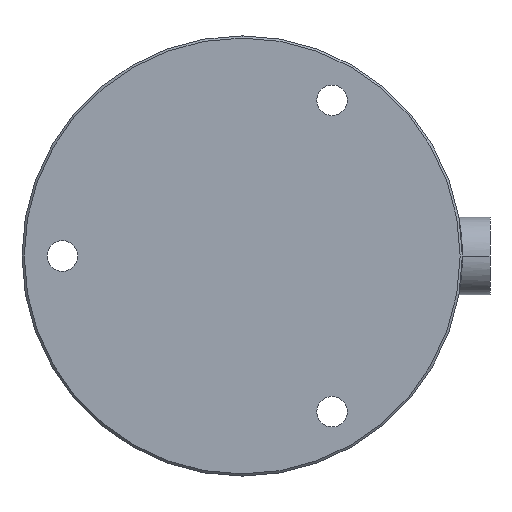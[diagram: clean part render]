
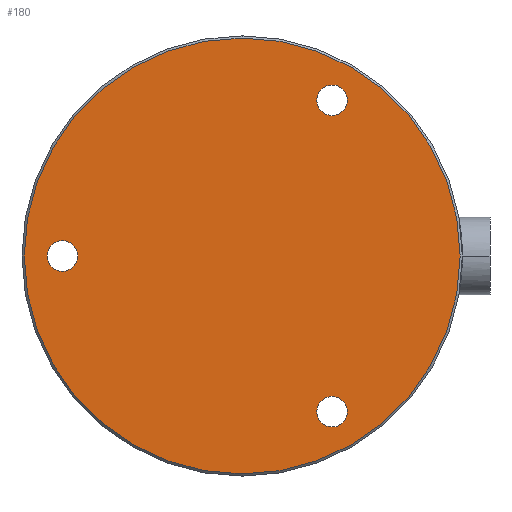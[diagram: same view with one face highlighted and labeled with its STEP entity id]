
A CAD part, front view. The second image highlights one B-rep face of the part: STEP entity #180.
In plain terms, the highlighted planar face has unit normal (0, -1, 0).
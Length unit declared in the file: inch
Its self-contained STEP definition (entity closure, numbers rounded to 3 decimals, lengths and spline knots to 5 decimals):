
#1 = AXIS2_PLACEMENT_3D ( 'NONE', #393, #382, #388 ) ;
#6 = EDGE_CURVE ( 'NONE', #324, #310, #711, .T. ) ;
#8 = EDGE_CURVE ( 'NONE', #328, #314, #701, .T. ) ;
#15 = AXIS2_PLACEMENT_3D ( 'NONE', #385, #387, #367 ) ;
#57 = AXIS2_PLACEMENT_3D ( 'NONE', #500, #501, #511 ) ;
#61 = AXIS2_PLACEMENT_3D ( 'NONE', #578, #606, #607 ) ;
#67 = AXIS2_PLACEMENT_3D ( 'NONE', #183, #214, #202 ) ;
#69 = AXIS2_PLACEMENT_3D ( 'NONE', #622, #615, #613 ) ;
#79 = AXIS2_PLACEMENT_3D ( 'NONE', #604, #591, #599 ) ;
#82 = AXIS2_PLACEMENT_3D ( 'NONE', #203, #204, #209 ) ;
#87 = AXIS2_PLACEMENT_3D ( 'NONE', #196, #199, #200 ) ;
#100 = CIRCLE ( 'NONE', #82, 0.069 ) ;
#118 = CIRCLE ( 'NONE', #67, 0.069 ) ;
#142 = CIRCLE ( 'NONE', #69, 0.985 ) ;
#149 = CIRCLE ( 'NONE', #87, 0.069 ) ;
#180 = ADVANCED_FACE ( 'NONE', ( #778, #784, #777, #776 ), #499, .F. ) ;
#183 = CARTESIAN_POINT ( 'NONE',  ( -0.8125, -0.876, 0. ) ) ;
#196 = CARTESIAN_POINT ( 'NONE',  ( 0.40625, -0.876, -0.70365 ) ) ;
#199 = DIRECTION ( 'NONE',  ( 0., 1., 0. ) ) ;
#200 = DIRECTION ( 'NONE',  ( 0., 0., 1. ) ) ;
#202 = DIRECTION ( 'NONE',  ( 0., 0., 1. ) ) ;
#203 = CARTESIAN_POINT ( 'NONE',  ( 0.40625, -0.876, 0.70365 ) ) ;
#204 = DIRECTION ( 'NONE',  ( 0., 1., 0. ) ) ;
#209 = DIRECTION ( 'NONE',  ( 0., 0., 1. ) ) ;
#214 = DIRECTION ( 'NONE',  ( 0., 1., 0. ) ) ;
#310 = VERTEX_POINT ( 'NONE', #546 ) ;
#314 = VERTEX_POINT ( 'NONE', #547 ) ;
#319 = VERTEX_POINT ( 'NONE', #520 ) ;
#322 = VERTEX_POINT ( 'NONE', #570 ) ;
#324 = VERTEX_POINT ( 'NONE', #568 ) ;
#328 = VERTEX_POINT ( 'NONE', #536 ) ;
#334 = VERTEX_POINT ( 'NONE', #532 ) ;
#338 = VERTEX_POINT ( 'NONE', #533 ) ;
#367 = DIRECTION ( 'NONE',  ( 0., 0., 1. ) ) ;
#382 = DIRECTION ( 'NONE',  ( 0., 1., 0. ) ) ;
#385 = CARTESIAN_POINT ( 'NONE',  ( 0., -0.876, 0. ) ) ;
#387 = DIRECTION ( 'NONE',  ( 0., -1., 0. ) ) ;
#388 = DIRECTION ( 'NONE',  ( 0., 0., 1. ) ) ;
#393 = CARTESIAN_POINT ( 'NONE',  ( -0.8125, -0.876, 0. ) ) ;
#499 = PLANE ( 'NONE',  #57 ) ;
#500 = CARTESIAN_POINT ( 'NONE',  ( -2.19457, -0.876, 0. ) ) ;
#501 = DIRECTION ( 'NONE',  ( 0., 1., 0. ) ) ;
#511 = DIRECTION ( 'NONE',  ( 0., 0., 1. ) ) ;
#520 = CARTESIAN_POINT ( 'NONE',  ( 0.40625, -0.876, -0.63465 ) ) ;
#532 = CARTESIAN_POINT ( 'NONE',  ( 0.40625, -0.876, -0.77265 ) ) ;
#533 = CARTESIAN_POINT ( 'NONE',  ( 0.40625, -0.876, 0.77265 ) ) ;
#536 = CARTESIAN_POINT ( 'NONE',  ( 0., -0.876, 0.985 ) ) ;
#546 = CARTESIAN_POINT ( 'NONE',  ( -0.8125, -0.876, -0.069 ) ) ;
#547 = CARTESIAN_POINT ( 'NONE',  ( 0., -0.876, -0.985 ) ) ;
#568 = CARTESIAN_POINT ( 'NONE',  ( -0.8125, -0.876, 0.069 ) ) ;
#570 = CARTESIAN_POINT ( 'NONE',  ( 0.40625, -0.876, 0.63465 ) ) ;
#578 = CARTESIAN_POINT ( 'NONE',  ( 0.40625, -0.876, -0.70365 ) ) ;
#591 = DIRECTION ( 'NONE',  ( 0., 1., 0. ) ) ;
#599 = DIRECTION ( 'NONE',  ( 0., 0., 1. ) ) ;
#604 = CARTESIAN_POINT ( 'NONE',  ( 0.40625, -0.876, 0.70365 ) ) ;
#606 = DIRECTION ( 'NONE',  ( 0., 1., 0. ) ) ;
#607 = DIRECTION ( 'NONE',  ( 0., 0., 1. ) ) ;
#613 = DIRECTION ( 'NONE',  ( 0., 0., 1. ) ) ;
#615 = DIRECTION ( 'NONE',  ( 0., -1., 0. ) ) ;
#622 = CARTESIAN_POINT ( 'NONE',  ( 0., -0.876, 0. ) ) ;
#630 = EDGE_CURVE ( 'NONE', #334, #319, #686, .T. ) ;
#636 = EDGE_CURVE ( 'NONE', #322, #338, #689, .T. ) ;
#641 = EDGE_CURVE ( 'NONE', #314, #328, #142, .T. ) ;
#652 = EDGE_CURVE ( 'NONE', #310, #324, #118, .T. ) ;
#662 = EDGE_CURVE ( 'NONE', #319, #334, #149, .T. ) ;
#663 = EDGE_CURVE ( 'NONE', #338, #322, #100, .T. ) ;
#686 = CIRCLE ( 'NONE', #61, 0.069 ) ;
#689 = CIRCLE ( 'NONE', #79, 0.069 ) ;
#701 = CIRCLE ( 'NONE', #15, 0.985 ) ;
#711 = CIRCLE ( 'NONE', #1, 0.069 ) ;
#776 = FACE_BOUND ( 'NONE', #932, .T. ) ;
#777 = FACE_BOUND ( 'NONE', #817, .T. ) ;
#778 = FACE_OUTER_BOUND ( 'NONE', #948, .T. ) ;
#784 = FACE_BOUND ( 'NONE', #808, .T. ) ;
#808 = EDGE_LOOP ( 'NONE', ( #873, #842 ) ) ;
#817 = EDGE_LOOP ( 'NONE', ( #880, #868 ) ) ;
#836 = ORIENTED_EDGE ( 'NONE', *, *, #8, .T. ) ;
#841 = ORIENTED_EDGE ( 'NONE', *, *, #641, .T. ) ;
#842 = ORIENTED_EDGE ( 'NONE', *, *, #630, .T. ) ;
#866 = ORIENTED_EDGE ( 'NONE', *, *, #663, .T. ) ;
#868 = ORIENTED_EDGE ( 'NONE', *, *, #652, .T. ) ;
#873 = ORIENTED_EDGE ( 'NONE', *, *, #662, .T. ) ;
#880 = ORIENTED_EDGE ( 'NONE', *, *, #6, .T. ) ;
#884 = ORIENTED_EDGE ( 'NONE', *, *, #636, .T. ) ;
#932 = EDGE_LOOP ( 'NONE', ( #866, #884 ) ) ;
#948 = EDGE_LOOP ( 'NONE', ( #836, #841 ) ) ;
